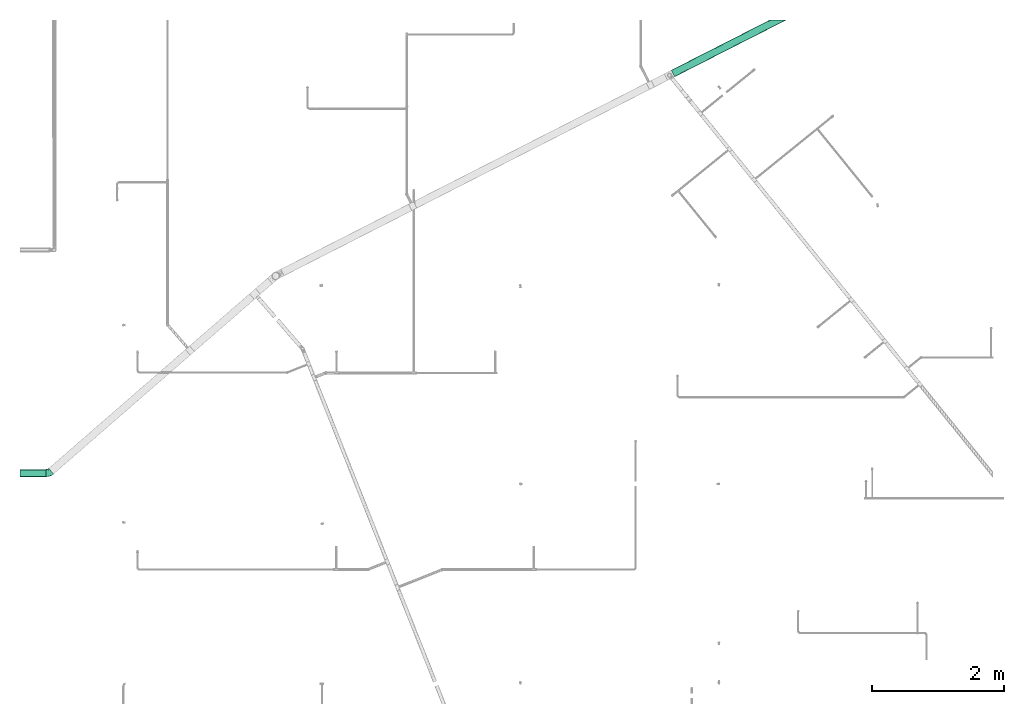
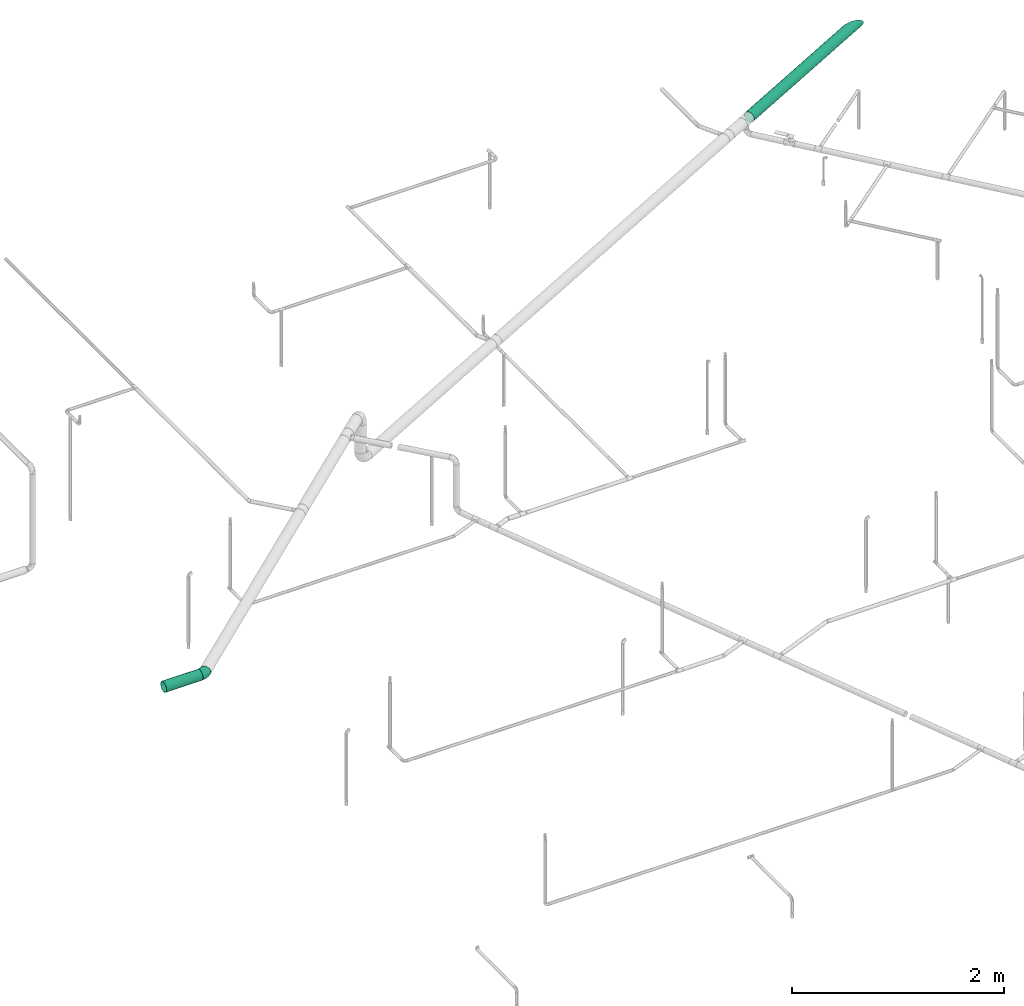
# One storey, part 89 of 94: 2 flow segments, 1 flow fitting.
"""IFC2X3 building model written with IfcOpenShell, lengths in millimetres."""

from ifc_helpers import new_model, entity, si_unit, converted_unit, derived_unit, direction, frame, origin_with_axes, place, context, subcontext, project, spatial, open_shell, faceted_brep, surface_model, source, transform, mapped, type_object, element, save


model = new_model("IFC2X3")

# Units and contexts
model_context = context("Model", 3, precision=0.01, world=frame((0.0, 4.29681676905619e-09, 0.0)), true_north=direction((4.01073788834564e-13, 1.0)))
plan_context = context("Plan", 3, precision=0.01, world=frame((0.0, 4.29681676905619e-09, 0.0)), true_north=direction((4.01073788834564e-13, 1.0)))
body_context = subcontext(model_context, "Body", "Model", "MODEL_VIEW")
ifc_project = project(units=[converted_unit("PLANEANGLEUNIT", "DEGREE", entity("IfcPositiveLengthMeasure", 0.0174532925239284), si_unit("PLANEANGLEUNIT", "RADIAN"), dimensions=[0, 0, 0, 0, 0, 0, 0]), si_unit("AREAUNIT", "SQUARE_METRE"), si_unit("LENGTHUNIT", "METRE", prefix="MILLI"), si_unit("MASSUNIT", "GRAM", prefix="KILO"), si_unit("POWERUNIT", "WATT"), si_unit("PRESSUREUNIT", "PASCAL", prefix="KILO"), si_unit("FORCEUNIT", "NEWTON", prefix="KILO"), si_unit("ELECTRICVOLTAGEUNIT", "VOLT"), si_unit("ELECTRICCURRENTUNIT", "AMPERE"), si_unit("THERMODYNAMICTEMPERATUREUNIT", "DEGREE_CELSIUS"), si_unit("TIMEUNIT", "SECOND"), si_unit("VOLUMEUNIT", "CUBIC_METRE"), derived_unit("LINEARVELOCITYUNIT", [(si_unit("LENGTHUNIT", "METRE"), 1), (si_unit("TIMEUNIT", "SECOND"), -1)]), derived_unit("VOLUMETRICFLOWRATEUNIT", [(si_unit("VOLUMEUNIT", "CUBIC_METRE"), 1), (si_unit("TIMEUNIT", "SECOND"), -1)]), derived_unit("THERMALTRANSMITTANCEUNIT", [(si_unit("POWERUNIT", "WATT"), 1), (si_unit("THERMODYNAMICTEMPERATUREUNIT", "KELVIN"), -1), (si_unit("AREAUNIT", "SQUARE_METRE"), -1)]), derived_unit("SOUNDPRESSUREUNIT", [(si_unit("PRESSUREUNIT", "PASCAL"), 1)])], contexts=[model_context, plan_context])

# Site, building, storey
site_placement = place(None, frame((0.0, -4.29681676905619e-09, 0.0), z_axis=(0.0, 0.0, 1.0), x_axis=(1.0, 0.0, 0.0)))
site = spatial("IfcSite", under=ifc_project, at=site_placement, CompositionType="ELEMENT")
building_placement = place(site_placement, frame((0.0, 4.29681676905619e-09, 0.0), z_axis=(0.0, 0.0, 1.0), x_axis=(1.0, 0.0, 0.0)))
building = spatial("IfcBuilding", under=site, at=building_placement, Name="mc-building", CompositionType="ELEMENT")
storey_placement = place(building_placement, frame((0.0, 0.0, 210900.0), z_axis=(0.0, 0.0, 1.0), x_axis=(1.0, 0.0, 0.0)))
storey = spatial("IfcBuildingStorey", under=building, at=storey_placement, Name="Nivå F", CompositionType="ELEMENT", Elevation=210900.0)

# Flow fitting
pipe_fitting_type = type_object("IfcPipeFittingType", Name="magi_pipe_fe_elbow_short_001", PredefinedType="BEND")
shared_shape = source(origin_with_axes(), body_context, "Body", "SurfaceModel", [
    surface_model("IfcShellBasedSurfaceModel", [(-42.77241, 14.80445, -55.25096), (-42.77241, 0.0, -57.2), (-42.77241, 55.25096, -14.80445), (-42.77241, 28.6, -49.53665), (-42.77241, 40.44651, -40.44651), (-42.77241, 49.53665, -28.6), (-42.77241, -14.80445, -55.25096), (-42.77241, -28.6, -49.53665), (-42.77241, -40.44651, -40.44651), (-42.77241, -49.53665, -28.6), (-42.77241, -57.2, 0.0), (-42.77241, -55.25096, 14.80445), (-42.77241, -55.25096, -14.80445), (-42.77241, 55.25096, 14.80445), (-42.77241, 49.53665, 28.6), (-42.77241, 14.80445, 55.25096), (-42.77241, 28.6, 49.53665), (-42.77241, 40.44651, 40.44651), (-42.77241, -49.53665, 28.6), (-42.77241, -40.44651, 40.44651), (-42.77241, -28.6, 49.53665), (-42.77241, -14.80445, 55.25096), (-42.77241, 0.0, 57.2), (-42.77241, 57.2, 0.0), (22.56815, 39.23428, -55.25096), (41.99334, 16.88816, -55.25096), (32.28074, 28.06122, -57.2), (5.74545, 58.58659, -40.44651), (13.51746, 49.64592, -49.53665), (-0.21822, 65.44701, -28.6), (-3.96714, 69.75965, -14.80445), (58.81604, -2.46414, -40.44651), (51.04403, 6.47653, -49.53665), (64.77971, -9.32456, -28.6), (68.52863, -13.6372, -14.80445), (68.52863, -13.6372, 14.80445), (69.80732, -15.10816, 0.0), (-3.96714, 69.75965, 14.80445), (22.56815, 39.23428, 55.25096), (-0.21822, 65.44701, 28.6), (5.74545, 58.58659, 40.44651), (13.51746, 49.64592, 49.53665), (58.81604, -2.46414, 40.44651), (64.77971, -9.32456, 28.6), (51.04403, 6.47653, 49.53665), (32.28074, 28.06122, 57.2), (41.99334, 16.88816, 55.25096), (-5.24583, 71.23061, 0.0), (-16.28264, -44.00972, 33.71262), (-7.82753, -49.85626, 20.15268), (13.8032, -36.91835, 32.38553), (-14.44284, -53.80519, 0.0), (-2.22798, -52.34145, 0.0), (-9.43756, -53.01952, 10.07397), (-9.83971, -32.52971, 44.30792), (41.16164, -22.53218, 33.71262), (-20.73568, -21.1889, 52.38617), (5.79723, -15.5054, 51.78728), (14.68148, 23.09107, 56.82729), (-13.71779, -5.58672, 56.47883), (-4.546, 12.15884, 56.95889), (-26.22936, 7.79513, 56.82729), (28.76753, -18.09506, 44.30792), (29.55058, -2.38764, 52.38617), (-18.04432, 23.79739, 53.40662), (-14.38438, 38.47276, 46.47931), (18.93044, -40.41496, 23.25798), (16.76973, -44.85269, 13.35264), (38.61617, -32.49168, 20.15268), (-16.3573, 49.62122, 36.00975), (-21.0145, 56.20583, 23.22812), (-21.69817, 59.88597, 11.87263), (41.90655, -33.82274, 10.07397), (46.19953, -31.13193, 0.0), (15.53787, 5.69351, 56.4942), (3.32215, 32.97772, 53.27023), (-22.74055, 60.82235, 0.0), (16.89629, -45.19117, 0.0), (36.02056, -38.0409, 0.0), (-15.46186, -5.89682, -56.4942), (-9.43757, -53.01952, -10.07397), (14.01817, 4.78333, -56.47883), (-26.22936, 7.79513, -56.82729), (-20.20944, 48.18097, -36.00974), (-14.38438, 38.47276, -46.47931), (28.76754, -18.09506, -44.30792), (38.61617, -32.49168, -20.15268), (-22.91292, 59.43179, -11.87263), (-21.0145, 56.20583, -23.22812), (16.76973, -44.85269, -13.35264), (-1.99427, 29.79825, -53.40662), (-24.14259, 22.70907, -53.27023), (-7.82753, -49.85626, -20.15268), (41.16164, -22.53218, -33.71262), (-16.28264, -44.00972, -33.71262), (13.8032, -36.91835, -32.38553), (12.22762, -42.92104, -23.25798), (-9.83971, -32.52971, -44.30792), (-20.73568, -21.1889, -52.38617), (29.55058, -2.38764, -52.38617), (14.68148, 23.09107, -56.82729), (5.79723, -15.5054, -51.78728), (41.90655, -33.82274, -10.07397), (-4.546, 12.15884, -56.95889)], [open_shell([[[0, 1, 2]], [[3, 0, 4]], [[2, 5, 4]], [[0, 2, 4]], [[6, 2, 1]], [[7, 8, 6]], [[9, 6, 8]], [[10, 11, 12]], [[6, 9, 11]], [[11, 9, 12]], [[2, 6, 13]], [[13, 6, 11]], [[14, 13, 15]], [[15, 16, 17]], [[14, 15, 17]], [[15, 13, 11]], [[18, 19, 11]], [[20, 11, 19]], [[21, 22, 20]], [[15, 11, 20]], [[20, 22, 15]], [[23, 2, 13]], [[24, 25, 26]], [[27, 24, 28]], [[27, 29, 30]], [[27, 30, 24]], [[25, 24, 30]], [[25, 31, 32]], [[31, 25, 33]], [[34, 35, 36]], [[33, 25, 30]], [[34, 33, 35]], [[33, 30, 37]], [[35, 33, 37]], [[38, 37, 39]], [[40, 41, 38]], [[40, 38, 39]], [[35, 37, 38]], [[35, 42, 43]], [[42, 35, 44]], [[44, 45, 46]], [[45, 44, 35]], [[35, 38, 45]], [[37, 30, 47]], [[48, 49, 50]], [[51, 52, 53]], [[20, 19, 54]], [[43, 42, 55]], [[56, 54, 57]], [[48, 19, 18]], [[45, 38, 58]], [[21, 20, 56]], [[59, 60, 61]], [[22, 21, 59]], [[62, 55, 42]], [[44, 46, 63]], [[61, 15, 22]], [[16, 64, 65]], [[66, 49, 67]], [[68, 66, 67]], [[16, 15, 64]], [[65, 17, 16]], [[48, 54, 19]], [[69, 17, 65]], [[13, 14, 70]], [[41, 40, 65]], [[71, 23, 13]], [[35, 72, 73]], [[49, 53, 67]], [[11, 51, 53]], [[74, 60, 59]], [[42, 44, 62]], [[60, 58, 75]], [[74, 46, 45]], [[39, 37, 70]], [[68, 43, 55]], [[57, 74, 59]], [[62, 44, 63]], [[69, 70, 14]], [[72, 35, 68]], [[49, 48, 18]], [[74, 45, 58]], [[55, 62, 50]], [[13, 70, 71]], [[18, 11, 49]], [[76, 71, 47]], [[54, 62, 57]], [[37, 71, 70]], [[17, 69, 14]], [[40, 39, 69]], [[57, 63, 74]], [[69, 65, 40]], [[70, 69, 39]], [[38, 41, 75]], [[75, 65, 64]], [[56, 59, 21]], [[61, 64, 15]], [[68, 35, 43]], [[54, 48, 50]], [[62, 54, 50]], [[55, 50, 66]], [[54, 56, 20]], [[59, 56, 57]], [[74, 63, 46]], [[62, 63, 57]], [[65, 75, 41]], [[60, 75, 64]], [[11, 10, 51]], [[67, 53, 52]], [[11, 53, 49]], [[77, 78, 67]], [[67, 78, 72]], [[73, 72, 78]], [[73, 36, 35]], [[67, 72, 68]], [[47, 71, 37]], [[71, 76, 23]], [[59, 61, 22]], [[64, 61, 60]], [[75, 58, 38]], [[74, 58, 60]], [[55, 66, 68]], [[49, 66, 50]], [[67, 52, 77]], [[6, 1, 79]], [[12, 80, 51]], [[26, 25, 81]], [[1, 0, 82]], [[83, 84, 4]], [[32, 31, 85]], [[5, 83, 4]], [[33, 34, 86]], [[2, 87, 88]], [[80, 89, 52]], [[28, 24, 90]], [[0, 3, 91]], [[80, 12, 92]], [[86, 93, 33]], [[94, 95, 96]], [[94, 92, 9]], [[8, 7, 97]], [[97, 85, 95]], [[12, 9, 92]], [[8, 94, 9]], [[98, 7, 6]], [[99, 81, 25]], [[100, 90, 24]], [[101, 98, 79]], [[23, 76, 87]], [[97, 94, 8]], [[47, 30, 87]], [[27, 83, 29]], [[34, 73, 102]], [[88, 5, 2]], [[83, 27, 84]], [[98, 97, 7]], [[90, 84, 28]], [[103, 81, 79]], [[84, 90, 91]], [[4, 84, 3]], [[96, 86, 89]], [[100, 24, 26]], [[99, 25, 32]], [[27, 28, 84]], [[33, 93, 31]], [[101, 99, 85]], [[93, 85, 31]], [[103, 100, 81]], [[95, 93, 86]], [[88, 83, 5]], [[102, 73, 78]], [[79, 1, 82]], [[101, 79, 81]], [[80, 92, 89]], [[94, 97, 95]], [[85, 97, 101]], [[30, 29, 88]], [[30, 88, 87]], [[83, 88, 29]], [[103, 82, 91]], [[85, 93, 95]], [[79, 98, 6]], [[97, 98, 101]], [[85, 99, 32]], [[81, 99, 101]], [[84, 91, 3]], [[103, 91, 90]], [[51, 80, 52]], [[51, 10, 12]], [[96, 89, 92]], [[102, 89, 86]], [[102, 78, 89]], [[34, 36, 73]], [[52, 89, 77]], [[34, 102, 86]], [[23, 87, 2]], [[87, 76, 47]], [[91, 82, 0]], [[79, 82, 103]], [[81, 100, 26]], [[90, 100, 103]], [[94, 96, 92]], [[86, 96, 95]], [[89, 78, 77]]])]),
])
flow_fitting_placement = place(storey_placement, frame((714876.23569, 439365.09221, 4200.0), z_axis=(0.0, 0.0, 1.0), x_axis=(1.0, 0.0, 0.0)))
element("IfcFlowFitting", 1, at=flow_fitting_placement, inside=storey, type_object=pipe_fitting_type, Name="magi_pipe_fe_elbow_short_001", context=body_context, shape_type="MappedRepresentation", body=[
    mapped(shared_shape, transform((0.0, 0.0, 0.0), scale=1.0)),
])

# Flow segments
pipe_segment_type = type_object("IfcPipeSegmentType", Name="Stålrør normaltykke", PredefinedType="RIGIDSEGMENT")
flow_segment_1_placement = place(storey_placement, frame((712954.40779, 439365.09221, 4200.0), z_axis=(0.0, 0.0, 1.0), x_axis=(1.0, 0.0, 0.0)))
element("IfcFlowSegment", 2, at=flow_segment_1_placement, inside=storey, type_object=pipe_segment_type, Name="Stålrør normaltykke", context=body_context, shape_type="Brep", body=[
    faceted_brep([(1483.5797099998, 54.2629071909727, -9.56801458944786), (1483.5797099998, 55.1, 0.0), (1879.1, 55.1, 0.0), (1879.1, 54.2629071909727, -9.56801458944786), (1483.5797099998, 51.7770634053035, -18.8453098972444), (1879.1, 51.7770634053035, -18.8453098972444), (1483.5797099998, 47.7179997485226, -27.55), (1879.1, 47.7179997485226, -27.55), (1483.5797099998, 42.2090488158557, -35.4175972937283), (1879.1, 42.2090488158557, -35.4175972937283), (1483.5797099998, 35.4175972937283, -42.2090488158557), (1879.1, 35.4175972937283, -42.2090488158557), (1483.5797099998, 27.55, -47.7179997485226), (1879.1, 27.55, -47.7179997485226), (1483.5797099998, 18.8453098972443, -51.7770634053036), (1879.1, 18.8453098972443, -51.7770634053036), (1483.5797099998, 9.56801458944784, -54.2629071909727), (1879.1, 9.56801458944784, -54.2629071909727), (1483.5797099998, -1.01217057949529e-14, -55.1), (1879.1, -1.01217057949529e-14, -55.1), (1483.5797099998, -9.56801458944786, -54.2629071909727), (1879.1, -9.56801458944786, -54.2629071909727), (1483.5797099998, -18.8453098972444, -51.7770634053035), (1879.1, -18.8453098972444, -51.7770634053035), (1483.5797099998, -27.55, -47.7179997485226), (1879.1, -27.55, -47.7179997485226), (1483.5797099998, -35.4175972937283, -42.2090488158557), (1879.1, -35.4175972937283, -42.2090488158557), (1483.5797099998, -42.2090488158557, -35.4175972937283), (1879.1, -42.2090488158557, -35.4175972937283), (1483.5797099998, -47.7179997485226, -27.55), (1879.1, -47.7179997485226, -27.55), (1483.5797099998, -51.7770634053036, -18.8453098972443), (1879.1, -51.7770634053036, -18.8453098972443), (1483.5797099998, -54.2629071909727, -9.56801458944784), (1879.1, -54.2629071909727, -9.56801458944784), (1483.5797099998, -55.1, 6.74780386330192e-15), (1879.1, -55.1, 6.74780386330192e-15), (1483.5797099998, -54.2629071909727, 9.56801458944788), (1879.1, -54.2629071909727, 9.56801458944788), (1483.5797099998, -51.7770634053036, 18.8453098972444), (1879.1, -51.7770634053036, 18.8453098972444), (1483.5797099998, -47.7179997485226, 27.55), (1879.1, -47.7179997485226, 27.55), (1483.5797099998, -42.2090488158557, 35.4175972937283), (1879.1, -42.2090488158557, 35.4175972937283), (1483.5797099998, -35.4175972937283, 42.2090488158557), (1879.1, -35.4175972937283, 42.2090488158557), (1483.5797099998, -27.55, 47.7179997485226), (1879.1, -27.55, 47.7179997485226), (1483.5797099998, -18.8453098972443, 51.7770634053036), (1879.1, -18.8453098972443, 51.7770634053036), (1483.5797099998, -9.56801458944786, 54.2629071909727), (1879.1, -9.56801458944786, 54.2629071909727), (1483.5797099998, 3.37390193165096e-15, 55.1), (1879.1, 3.37390193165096e-15, 55.1), (1483.5797099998, 9.56801458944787, 54.2629071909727), (1879.1, 9.56801458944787, 54.2629071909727), (1483.5797099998, 18.8453098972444, 51.7770634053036), (1879.1, 18.8453098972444, 51.7770634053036), (1483.5797099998, 27.55, 47.7179997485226), (1879.1, 27.55, 47.7179997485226), (1483.5797099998, 35.4175972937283, 42.2090488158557), (1879.1, 35.4175972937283, 42.2090488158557), (1483.5797099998, 42.2090488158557, 35.4175972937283), (1879.1, 42.2090488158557, 35.4175972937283), (1483.5797099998, 47.7179997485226, 27.55), (1879.1, 47.7179997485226, 27.55), (1483.5797099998, 51.7770634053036, 18.8453098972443), (1879.1, 51.7770634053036, 18.8453098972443), (1483.5797099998, 54.2629071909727, 9.56801458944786), (1879.1, 54.2629071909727, 9.56801458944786), (1483.5797099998, 57.1, 0.0), (1483.5797099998, 56.2325226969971, -9.91531094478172), (1879.1, 56.2325226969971, -9.91531094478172), (1879.1, 57.1, 0.0), (1483.5797099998, 56.2325226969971, 9.91531094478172), (1879.1, 56.2325226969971, 9.91531094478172), (1483.5797099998, 53.6564486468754, 19.5293501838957), (1879.1, 53.6564486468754, 19.5293501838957), (1483.5797099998, 49.4500505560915, 28.55), (1879.1, 49.4500505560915, 28.55), (1483.5797099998, 43.7411377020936, 36.7031725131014), (1879.1, 43.7411377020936, 36.7031725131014), (1483.5797099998, 36.7031725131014, 43.7411377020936), (1879.1, 36.7031725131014, 43.7411377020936), (1483.5797099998, 28.55, 49.4500505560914), (1879.1, 28.55, 49.4500505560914), (1483.5797099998, 19.5293501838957, 53.6564486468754), (1879.1, 19.5293501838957, 53.6564486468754), (1483.5797099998, 9.91531094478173, 56.2325226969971), (1879.1, 9.91531094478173, 56.2325226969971), (1483.5797099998, 3.49636661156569e-15, 57.1), (1879.1, 3.49636661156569e-15, 57.1), (1483.5797099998, -9.91531094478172, 56.2325226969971), (1879.1, -9.91531094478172, 56.2325226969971), (1483.5797099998, -19.5293501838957, 53.6564486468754), (1879.1, -19.5293501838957, 53.6564486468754), (1483.5797099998, -28.55, 49.4500505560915), (1879.1, -28.55, 49.4500505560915), (1483.5797099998, -36.7031725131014, 43.7411377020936), (1879.1, -36.7031725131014, 43.7411377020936), (1483.5797099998, -43.7411377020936, 36.7031725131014), (1879.1, -43.7411377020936, 36.7031725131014), (1483.5797099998, -49.4500505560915, 28.55), (1879.1, -49.4500505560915, 28.55), (1483.5797099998, -53.6564486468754, 19.5293501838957), (1879.1, -53.6564486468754, 19.5293501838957), (1483.5797099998, -56.2325226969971, 9.91531094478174), (1879.1, -56.2325226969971, 9.91531094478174), (1483.5797099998, -57.1, 6.99273322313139e-15), (1879.1, -57.1, 6.99273322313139e-15), (1483.5797099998, -56.2325226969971, -9.91531094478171), (1879.1, -56.2325226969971, -9.91531094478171), (1483.5797099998, -53.6564486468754, -19.5293501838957), (1879.1, -53.6564486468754, -19.5293501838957), (1483.5797099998, -49.4500505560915, -28.55), (1879.1, -49.4500505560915, -28.55), (1483.5797099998, -43.7411377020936, -36.7031725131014), (1879.1, -43.7411377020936, -36.7031725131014), (1483.5797099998, -36.7031725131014, -43.7411377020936), (1879.1, -36.7031725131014, -43.7411377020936), (1483.5797099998, -28.55, -49.4500505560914), (1879.1, -28.55, -49.4500505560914), (1483.5797099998, -19.5293501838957, -53.6564486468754), (1879.1, -19.5293501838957, -53.6564486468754), (1483.5797099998, -9.91531094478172, -56.2325226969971), (1879.1, -9.91531094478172, -56.2325226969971), (1483.5797099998, -1.04890998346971e-14, -57.1), (1879.1, -1.04890998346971e-14, -57.1), (1483.5797099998, 9.9153109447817, -56.2325226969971), (1879.1, 9.9153109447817, -56.2325226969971), (1483.5797099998, 19.5293501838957, -53.6564486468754), (1879.1, 19.5293501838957, -53.6564486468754), (1483.5797099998, 28.55, -49.4500505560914), (1879.1, 28.55, -49.4500505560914), (1483.5797099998, 36.7031725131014, -43.7411377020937), (1879.1, 36.7031725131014, -43.7411377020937), (1483.5797099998, 43.7411377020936, -36.7031725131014), (1879.1, 43.7411377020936, -36.7031725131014), (1483.5797099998, 49.4500505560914, -28.55), (1879.1, 49.4500505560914, -28.55), (1483.5797099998, 53.6564486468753, -19.5293501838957), (1879.1, 53.6564486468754, -19.5293501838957)], [[[0, 1, 2, 3]], [[4, 0, 3, 5]], [[6, 4, 5, 7]], [[8, 6, 7, 9]], [[10, 8, 9, 11]], [[12, 10, 11, 13]], [[14, 12, 13, 15]], [[16, 14, 15, 17]], [[18, 16, 17, 19]], [[20, 18, 19, 21]], [[22, 20, 21, 23]], [[24, 22, 23, 25]], [[26, 24, 25, 27]], [[28, 26, 27, 29]], [[30, 28, 29, 31]], [[32, 30, 31, 33]], [[34, 32, 33, 35]], [[36, 34, 35, 37]], [[38, 36, 37, 39]], [[40, 38, 39, 41]], [[42, 40, 41, 43]], [[44, 42, 43, 45]], [[46, 44, 45, 47]], [[48, 46, 47, 49]], [[50, 48, 49, 51]], [[52, 50, 51, 53]], [[54, 52, 53, 55]], [[56, 54, 55, 57]], [[58, 56, 57, 59]], [[60, 58, 59, 61]], [[62, 60, 61, 63]], [[64, 62, 63, 65]], [[66, 64, 65, 67]], [[68, 66, 67, 69]], [[70, 68, 69, 71]], [[1, 70, 71, 2]], [[72, 73, 74, 75]], [[76, 72, 75, 77]], [[78, 76, 77, 79]], [[80, 78, 79, 81]], [[82, 80, 81, 83]], [[84, 82, 83, 85]], [[86, 84, 85, 87]], [[88, 86, 87, 89]], [[90, 88, 89, 91]], [[92, 90, 91, 93]], [[94, 92, 93, 95]], [[96, 94, 95, 97]], [[98, 96, 97, 99]], [[100, 98, 99, 101]], [[102, 100, 101, 103]], [[104, 102, 103, 105]], [[106, 104, 105, 107]], [[108, 106, 107, 109]], [[110, 108, 109, 111]], [[112, 110, 111, 113]], [[114, 112, 113, 115]], [[116, 114, 115, 117]], [[118, 116, 117, 119]], [[120, 118, 119, 121]], [[122, 120, 121, 123]], [[124, 122, 123, 125]], [[126, 124, 125, 127]], [[128, 126, 127, 129]], [[130, 128, 129, 131]], [[132, 130, 131, 133]], [[134, 132, 133, 135]], [[136, 134, 135, 137]], [[138, 136, 137, 139]], [[140, 138, 139, 141]], [[142, 140, 141, 143]], [[73, 142, 143, 74]], [[75, 74, 143, 141, 139, 137, 135, 133, 131, 129, 127, 125, 123, 121, 119, 117, 115, 113, 111, 109, 107, 105, 103, 101, 99, 97, 95, 93, 91, 89, 87, 85, 83, 81, 79, 77], [2, 71, 69, 67, 65, 63, 61, 59, 57, 55, 53, 51, 49, 47, 45, 43, 41, 39, 37, 35, 33, 31, 29, 27, 25, 23, 21, 19, 17, 15, 13, 11, 9, 7, 5, 3]], [[76, 78, 80, 82, 84, 86, 88, 90, 92, 94, 96, 98, 100, 102, 104, 106, 108, 110, 112, 114, 116, 118, 120, 122, 124, 126, 128, 130, 132, 134, 136, 138, 140, 142, 73, 72], [4, 6, 8, 10, 12, 14, 16, 18, 20, 22, 24, 26, 28, 30, 32, 34, 36, 38, 40, 42, 44, 46, 48, 50, 52, 54, 56, 58, 60, 62, 64, 66, 68, 70, 1, 0]]], orient=[[False], [False], [False], [False], [False], [False], [False], [False], [False], [False], [False], [False], [False], [False], [False], [False], [False], [False], [False], [False], [False], [False], [False], [False], [False], [False], [False], [False], [False], [False], [False], [False], [False], [False], [False], [False], [False], [False], [False], [False], [False], [False], [False], [False], [False], [False], [False], [False], [False], [False], [False], [False], [False], [False], [False], [False], [False], [False], [False], [False], [False], [False], [False], [False], [False], [False], [False], [False], [False], [False], [False], [False], [False, False], [False, False]]),
])
flow_segment_2_placement = place(storey_placement, frame((724307.59532, 445403.28939, 3650.0), z_axis=(0.0, 0.0, 1.0), x_axis=(0.891006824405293, 0.453989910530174, 0.0)))
element("IfcFlowSegment", 3, at=flow_segment_2_placement, inside=storey, type_object=pipe_segment_type, Name="Stålrør normaltykke", context=body_context, shape_type="Brep", body=[
    faceted_brep([(1671.93274609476, 55.1, 0.0), (1673.57563592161, 54.2629071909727, -9.56801458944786), (0.0, 54.2629071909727, -9.56801458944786), (0.0, 55.1, 0.0), (1678.45438702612, 51.7770634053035, -18.8453098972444), (0.0, 51.7770634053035, -18.8453098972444), (1686.42076102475, 47.7179997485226, -27.55), (0.0, 47.7179997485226, -27.55), (1697.23270367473, 42.2090488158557, -35.4175972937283), (0.0, 42.2090488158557, -35.4175972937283), (1710.56169956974, 35.4175972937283, -42.2090488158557), (0.0, 35.4175972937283, -42.2090488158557), (1726.00275391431, 27.55, -47.7179997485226), (0.0, 27.55, -47.7179997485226), (1743.08669808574, 18.8453098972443, -51.7770634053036), (0.0, 18.8453098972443, -51.7770634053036), (1761.29444508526, 9.56801458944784, -54.2629071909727), (0.0, 9.56801458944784, -54.2629071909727), (1780.07276173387, -1.01217057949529e-14, -55.1), (0.0, -1.01217057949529e-14, -55.1), (1798.85107838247, -9.56801458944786, -54.2629071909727), (0.0, -9.56801458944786, -54.2629071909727), (1817.058825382, -18.8453098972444, -51.7770634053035), (0.0, -18.8453098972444, -51.7770634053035), (1834.14276955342, -27.55, -47.7179997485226), (0.0, -27.55, -47.7179997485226), (1849.583823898, -35.4175972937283, -42.2090488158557), (0.0, -35.4175972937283, -42.2090488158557), (1862.91281979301, -42.2090488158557, -35.4175972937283), (0.0, -42.2090488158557, -35.4175972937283), (1873.72476244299, -47.7179997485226, -27.55), (0.0, -47.7179997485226, -27.55), (1881.69113644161, -51.7770634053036, -18.8453098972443), (0.0, -51.7770634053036, -18.8453098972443), (1886.56988754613, -54.2629071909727, -9.56801458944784), (0.0, -54.2629071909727, -9.56801458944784), (1888.21277737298, -55.1, 6.74780386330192e-15), (0.0, -55.1, 6.74780386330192e-15), (1886.56988754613, -54.2629071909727, 9.56801458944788), (0.0, -54.2629071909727, 9.56801458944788), (1881.69113644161, -51.7770634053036, 18.8453098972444), (0.0, -51.7770634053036, 18.8453098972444), (1873.72476244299, -47.7179997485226, 27.55), (0.0, -47.7179997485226, 27.55), (1862.91281979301, -42.2090488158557, 35.4175972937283), (0.0, -42.2090488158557, 35.4175972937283), (1849.583823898, -35.4175972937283, 42.2090488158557), (0.0, -35.4175972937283, 42.2090488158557), (1834.14276955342, -27.55, 47.7179997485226), (0.0, -27.55, 47.7179997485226), (1817.058825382, -18.8453098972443, 51.7770634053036), (0.0, -18.8453098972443, 51.7770634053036), (1798.85107838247, -9.56801458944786, 54.2629071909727), (0.0, -9.56801458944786, 54.2629071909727), (1780.07276173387, 3.37390193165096e-15, 55.1), (0.0, 3.37390193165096e-15, 55.1), (1761.29444508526, 9.56801458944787, 54.2629071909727), (0.0, 9.56801458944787, 54.2629071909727), (1743.08669808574, 18.8453098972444, 51.7770634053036), (0.0, 18.8453098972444, 51.7770634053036), (1726.00275391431, 27.55, 47.7179997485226), (0.0, 27.55, 47.7179997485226), (1710.56169956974, 35.4175972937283, 42.2090488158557), (0.0, 35.4175972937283, 42.2090488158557), (1697.23270367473, 42.2090488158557, 35.4175972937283), (0.0, 42.2090488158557, 35.4175972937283), (1686.42076102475, 47.7179997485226, 27.55), (0.0, 47.7179997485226, 27.55), (1678.45438702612, 51.7770634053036, 18.8453098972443), (0.0, 51.7770634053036, 18.8453098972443), (1673.57563592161, 54.2629071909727, 9.56801458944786), (0.0, 54.2629071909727, 9.56801458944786), (1669.71004151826, 56.2325226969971, -9.91531094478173), (1668.00751866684, 57.1, 0.0), (0.0, 57.1, 0.0), (0.0, 56.2325226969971, -9.91531094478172), (1669.71004151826, 56.2325226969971, 9.91531094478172), (0.0, 56.2325226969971, 9.91531094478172), (1674.7658797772, 53.6564486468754, 19.5293501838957), (0.0, 53.6564486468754, 19.5293501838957), (1683.02141435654, 49.4500505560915, 28.55), (0.0, 49.4500505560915, 28.55), (1694.22580501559, 43.7411377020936, 36.7031725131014), (0.0, 43.7411377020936, 36.7031725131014), (1708.03861201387, 36.7031725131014, 43.7411377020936), (0.0, 36.7031725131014, 43.7411377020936), (1724.04014020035, 28.55, 49.4500505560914), (0.0, 28.55, 49.4500505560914), (1741.74419123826, 19.5293501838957, 53.6564486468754), (0.0, 19.5293501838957, 53.6564486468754), (1760.61283649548, 9.91531094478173, 56.2325226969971), (0.0, 9.91531094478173, 56.2325226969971), (1780.07276173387, 3.49636661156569e-15, 57.1), (0.0, 3.49636661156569e-15, 57.1), (1799.53268697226, -9.91531094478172, 56.2325226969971), (0.0, -9.91531094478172, 56.2325226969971), (1818.40133222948, -19.5293501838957, 53.6564486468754), (0.0, -19.5293501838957, 53.6564486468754), (1836.10538326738, -28.55, 49.4500505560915), (0.0, -28.55, 49.4500505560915), (1852.10691145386, -36.7031725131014, 43.7411377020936), (0.0, -36.7031725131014, 43.7411377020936), (1865.91971845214, -43.7411377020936, 36.7031725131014), (0.0, -43.7411377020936, 36.7031725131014), (1877.12410911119, -49.4500505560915, 28.55), (0.0, -49.4500505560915, 28.55), (1885.37964369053, -53.6564486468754, 19.5293501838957), (0.0, -53.6564486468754, 19.5293501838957), (1890.43548194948, -56.2325226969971, 9.91531094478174), (0.0, -56.2325226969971, 9.91531094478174), (1892.1380048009, -57.1, 6.99273322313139e-15), (0.0, -57.1, 6.99273322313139e-15), (1890.43548194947, -56.2325226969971, -9.91531094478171), (0.0, -56.2325226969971, -9.91531094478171), (1885.37964369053, -53.6564486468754, -19.5293501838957), (0.0, -53.6564486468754, -19.5293501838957), (1877.12410911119, -49.4500505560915, -28.55), (0.0, -49.4500505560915, -28.55), (1865.91971845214, -43.7411377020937, -36.7031725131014), (0.0, -43.7411377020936, -36.7031725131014), (1852.10691145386, -36.7031725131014, -43.7411377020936), (0.0, -36.7031725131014, -43.7411377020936), (1836.10538326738, -28.55, -49.4500505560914), (0.0, -28.55, -49.4500505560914), (1818.40133222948, -19.5293501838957, -53.6564486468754), (0.0, -19.5293501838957, -53.6564486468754), (1799.53268697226, -9.91531094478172, -56.2325226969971), (0.0, -9.91531094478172, -56.2325226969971), (1780.07276173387, -1.04890998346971e-14, -57.1), (0.0, -1.04890998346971e-14, -57.1), (1760.61283649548, 9.9153109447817, -56.2325226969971), (0.0, 9.9153109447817, -56.2325226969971), (1741.74419123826, 19.5293501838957, -53.6564486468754), (0.0, 19.5293501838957, -53.6564486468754), (1724.04014020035, 28.55, -49.4500505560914), (0.0, 28.55, -49.4500505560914), (1708.03861201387, 36.7031725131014, -43.7411377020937), (0.0, 36.7031725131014, -43.7411377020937), (1694.22580501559, 43.7411377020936, -36.7031725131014), (0.0, 43.7411377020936, -36.7031725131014), (1683.02141435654, 49.4500505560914, -28.55), (0.0, 49.4500505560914, -28.55), (1674.7658797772, 53.6564486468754, -19.5293501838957), (0.0, 53.6564486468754, -19.5293501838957)], [[[0, 1, 2, 3]], [[1, 4, 5, 2]], [[4, 6, 7, 5]], [[6, 8, 9, 7]], [[8, 10, 11, 9]], [[10, 12, 13, 11]], [[12, 14, 15, 13]], [[14, 16, 17, 15]], [[16, 18, 19, 17]], [[18, 20, 21, 19]], [[20, 22, 23, 21]], [[22, 24, 25, 23]], [[24, 26, 27, 25]], [[26, 28, 29, 27]], [[28, 30, 31, 29]], [[30, 32, 33, 31]], [[32, 34, 35, 33]], [[34, 36, 37, 35]], [[36, 38, 39, 37]], [[38, 40, 41, 39]], [[40, 42, 43, 41]], [[42, 44, 45, 43]], [[44, 46, 47, 45]], [[46, 48, 49, 47]], [[48, 50, 51, 49]], [[50, 52, 53, 51]], [[52, 54, 55, 53]], [[54, 56, 57, 55]], [[56, 58, 59, 57]], [[58, 60, 61, 59]], [[60, 62, 63, 61]], [[62, 64, 65, 63]], [[64, 66, 67, 65]], [[66, 68, 69, 67]], [[68, 70, 71, 69]], [[70, 0, 3, 71]], [[72, 73, 74, 75]], [[73, 76, 77, 74]], [[76, 78, 79, 77]], [[78, 80, 81, 79]], [[80, 82, 83, 81]], [[82, 84, 85, 83]], [[84, 86, 87, 85]], [[86, 88, 89, 87]], [[88, 90, 91, 89]], [[90, 92, 93, 91]], [[92, 94, 95, 93]], [[94, 96, 97, 95]], [[96, 98, 99, 97]], [[98, 100, 101, 99]], [[100, 102, 103, 101]], [[102, 104, 105, 103]], [[104, 106, 107, 105]], [[106, 108, 109, 107]], [[108, 110, 111, 109]], [[110, 112, 113, 111]], [[112, 114, 115, 113]], [[114, 116, 117, 115]], [[116, 118, 119, 117]], [[118, 120, 121, 119]], [[120, 122, 123, 121]], [[122, 124, 125, 123]], [[124, 126, 127, 125]], [[126, 128, 129, 127]], [[128, 130, 131, 129]], [[130, 132, 133, 131]], [[132, 134, 135, 133]], [[134, 136, 137, 135]], [[136, 138, 139, 137]], [[138, 140, 141, 139]], [[140, 142, 143, 141]], [[142, 72, 75, 143]], [[75, 74, 77, 79, 81, 83, 85, 87, 89, 91, 93, 95, 97, 99, 101, 103, 105, 107, 109, 111, 113, 115, 117, 119, 121, 123, 125, 127, 129, 131, 133, 135, 137, 139, 141, 143], [3, 2, 5, 7, 9, 11, 13, 15, 17, 19, 21, 23, 25, 27, 29, 31, 33, 35, 37, 39, 41, 43, 45, 47, 49, 51, 53, 55, 57, 59, 61, 63, 65, 67, 69, 71]], [[142, 140, 138, 136, 134, 132, 130, 128, 126, 124, 122, 120, 118, 116, 114, 112, 110, 108, 106, 104, 102, 100, 98, 96, 94, 92, 90, 88, 86, 84, 82, 80, 78, 76, 73, 72], [70, 68, 66, 64, 62, 60, 58, 56, 54, 52, 50, 48, 46, 44, 42, 40, 38, 36, 34, 32, 30, 28, 26, 24, 22, 20, 18, 16, 14, 12, 10, 8, 6, 4, 1, 0]]], orient=[[False], [False], [False], [False], [False], [False], [False], [False], [False], [False], [False], [False], [False], [False], [False], [False], [False], [False], [False], [False], [False], [False], [False], [False], [False], [False], [False], [False], [False], [False], [False], [False], [False], [False], [False], [False], [False], [False], [False], [False], [False], [False], [False], [False], [False], [False], [False], [False], [False], [False], [False], [False], [False], [False], [False], [False], [False], [False], [False], [False], [False], [False], [False], [False], [False], [False], [False], [False], [False], [False], [False], [False], [False, False], [False, False]]),
])

save(model, "model.ifc")
